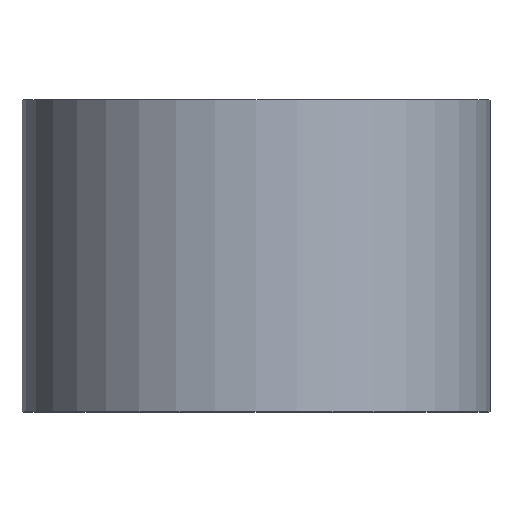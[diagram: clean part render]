
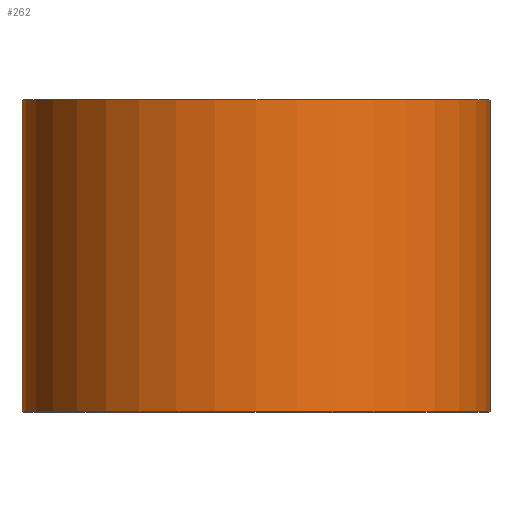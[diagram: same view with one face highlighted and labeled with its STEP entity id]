
A CAD part, top view. The second image highlights one B-rep face of the part: STEP entity #262.
In plain terms, the highlighted cylindrical face has radius 9 mm (diameter 18 mm), a partial arc.
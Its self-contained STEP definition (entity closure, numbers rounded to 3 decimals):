
#7 = ORIENTED_EDGE ( 'NONE', *, *, #234, .F. ) ;
#9 = CARTESIAN_POINT ( 'NONE',  ( 9., 0., 0. ) ) ;
#26 = VERTEX_POINT ( 'NONE', #9 ) ;
#34 = DIRECTION ( 'NONE',  ( -1., 0., 0. ) ) ;
#37 = LINE ( 'NONE', #284, #183 ) ;
#42 = AXIS2_PLACEMENT_3D ( 'NONE', #64, #155, #294 ) ;
#49 = CARTESIAN_POINT ( 'NONE',  ( -9., 0., 0. ) ) ;
#52 = ORIENTED_EDGE ( 'NONE', *, *, #139, .T. ) ;
#53 = CYLINDRICAL_SURFACE ( 'NONE', #42, 9. ) ;
#64 = CARTESIAN_POINT ( 'NONE',  ( 0., 0., 0. ) ) ;
#74 = EDGE_CURVE ( 'NONE', #26, #269, #37, .T. ) ;
#78 = ORIENTED_EDGE ( 'NONE', *, *, #74, .T. ) ;
#94 = CIRCLE ( 'NONE', #194, 9. ) ;
#113 = VERTEX_POINT ( 'NONE', #145 ) ;
#129 = VERTEX_POINT ( 'NONE', #49 ) ;
#135 = FACE_OUTER_BOUND ( 'NONE', #172, .T. ) ;
#139 = EDGE_CURVE ( 'NONE', #129, #26, #94, .T. ) ;
#145 = CARTESIAN_POINT ( 'NONE',  ( -9., 12., 0. ) ) ;
#150 = CIRCLE ( 'NONE', #165, 9. ) ;
#155 = DIRECTION ( 'NONE',  ( 0., 1., 0. ) ) ;
#165 = AXIS2_PLACEMENT_3D ( 'NONE', #229, #279, #185 ) ;
#172 = EDGE_LOOP ( 'NONE', ( #52, #78, #7, #193 ) ) ;
#176 = CARTESIAN_POINT ( 'NONE',  ( -9., 0., 0. ) ) ;
#183 = VECTOR ( 'NONE', #264, 1000. ) ;
#185 = DIRECTION ( 'NONE',  ( -1., 0., 0. ) ) ;
#187 = EDGE_CURVE ( 'NONE', #129, #113, #293, .T. ) ;
#193 = ORIENTED_EDGE ( 'NONE', *, *, #187, .F. ) ;
#194 = AXIS2_PLACEMENT_3D ( 'NONE', #223, #197, #34 ) ;
#197 = DIRECTION ( 'NONE',  ( 0., 1., 0. ) ) ;
#223 = CARTESIAN_POINT ( 'NONE',  ( 0., 0., 0. ) ) ;
#229 = CARTESIAN_POINT ( 'NONE',  ( 0., 12., 0. ) ) ;
#234 = EDGE_CURVE ( 'NONE', #113, #269, #150, .T. ) ;
#259 = VECTOR ( 'NONE', #270, 1000. ) ;
#262 = ADVANCED_FACE ( 'NONE', ( #135 ), #53, .T. ) ;
#264 = DIRECTION ( 'NONE',  ( 0., 1., 0. ) ) ;
#269 = VERTEX_POINT ( 'NONE', #299 ) ;
#270 = DIRECTION ( 'NONE',  ( 0., 1., 0. ) ) ;
#279 = DIRECTION ( 'NONE',  ( 0., 1., 0. ) ) ;
#284 = CARTESIAN_POINT ( 'NONE',  ( 9., 0., 0. ) ) ;
#293 = LINE ( 'NONE', #176, #259 ) ;
#294 = DIRECTION ( 'NONE',  ( -1., 0., 0. ) ) ;
#299 = CARTESIAN_POINT ( 'NONE',  ( 9., 12., 0. ) ) ;
